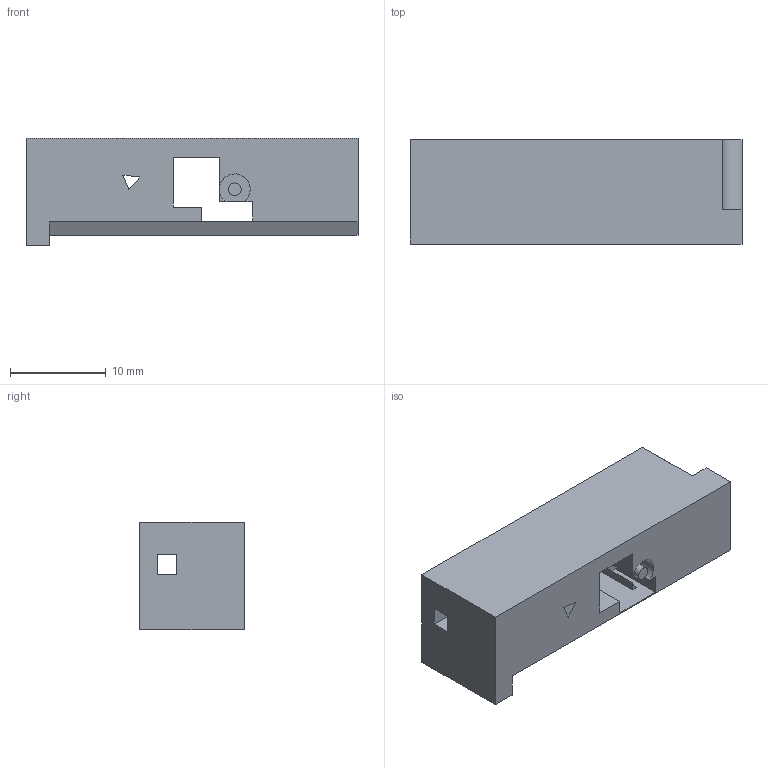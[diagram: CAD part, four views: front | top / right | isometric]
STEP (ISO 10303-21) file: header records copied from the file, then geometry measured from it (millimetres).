
FILE_DESCRIPTION(('Open CASCADE Model'),'2;1');
FILE_NAME('Open CASCADE Shape Model','2021-04-30T01:58:07',('Author'),( 'Open CASCADE'),'Open CASCADE STEP processor 7.4','Open CASCADE 7.4' ,'Unknown');
FILE_SCHEMA(('AUTOMOTIVE_DESIGN { 1 0 10303 214 1 1 1 1 }'));
Length unit declared in the file: millimetre
Products named in the file (1): Open CASCADE STEP translator 7.4 1678
Bounding box: 34.67 x 10.88 x 11.19 mm (x, y, z)
Volume: 3034 mm3; surface area: 2298.4 mm2
Topology: 1 solids, 1 shells, 44 faces, 123 edges, 82 vertices
Faces by surface type: plane 36, cylinder 8
Full cylindrical faces by diameter (mm): 1.331 x1
Entity records: 2971 total; most frequent: CARTESIAN_POINT 620, DIRECTION 386, LINE 255, VECTOR 255, ORIENTED_EDGE 246, PCURVE 246, DEFINITIONAL_REPRESENTATION 246, EDGE_CURVE 123
